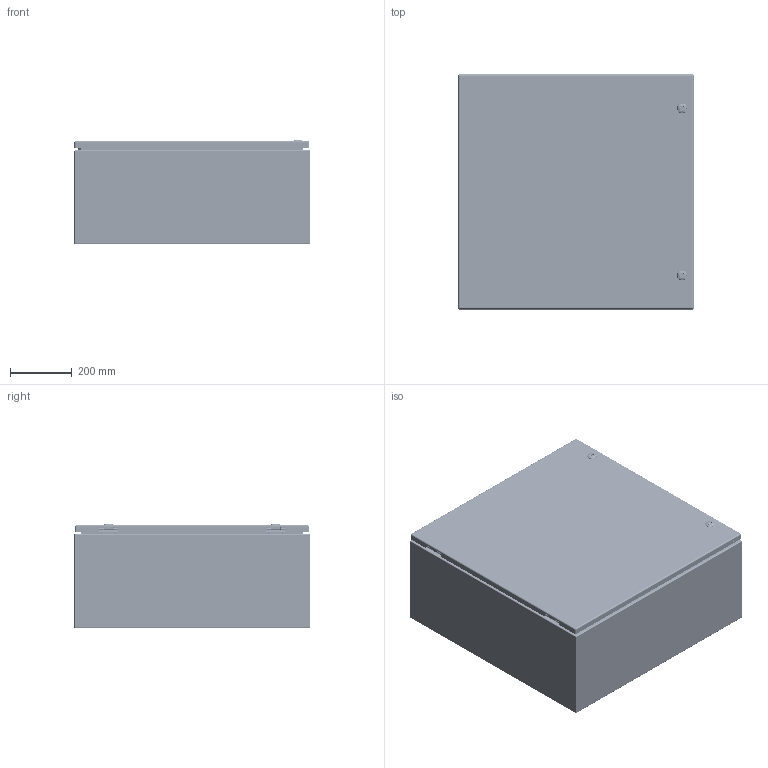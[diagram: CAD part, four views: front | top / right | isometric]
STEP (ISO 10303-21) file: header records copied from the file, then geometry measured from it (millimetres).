
FILE_DESCRIPTION(/* description */ ('5412ES 30" x 30" x 12" Assembly'),/* implementation_level */ '2;1');
FILE_NAME(/* name */ '5412ES303012.stp',/* time_stamp */ '2024-09-13T09:28:59-04:00',/* author */ ('BoxCad'),/* organization */ (''),/* preprocessor_version */ 'ST-DEVELOPER v20',/* originating_system */ 'Autodesk Inventor 2024',/* authorisation */ '');
FILE_SCHEMA (('AUTOMOTIVE_DESIGN { 1 0 10303 214 3 1 1 }'));
Products named in the file (44): 5412ES303012; 5412ES303012B; 5412ES303012B-P; STK-Q-16005; STUD_M6 x 16mm; 5412ES303012C; 5412ES303012C-P; 5412ES303012G; STK-K-09800-1; STK-K-09800-2; STK-Q-33014; STK-Q-90398; STK-Q-40095; STK-Q-63410; STK-Q-16055; STK-Q-46020-30; STK-Q-07220-1; STK-Q-07220-2; STK-Q-07220-3; STK-Q-07220-4; STK-Q-07220-A; STK-Q-07220-B; STK-P-02400S; STK-S-00100; STK-K-12500; STK-Q-78111; STK-Q-78141; STK-Q-78120; STK-Q-78145; STK-Q-03200; STK-Q-78160; STK-Q-90390; STK-Q-78111-R; STK-Q-04050-08-1; STK-Q-04050-08-2; STK-Q-04050-08-P; STK-Q-04051-N; STK-A-01800; 880 PP; 5412ES303012IPK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
Assembly tree (74 placements, depth 4):
  5412ES303012
    5412ES303012B
      5412ES303012B-P
      STK-Q-16005  x4
      STK-P-02400S
      STUD_M6 x 16mm
    5412ES303012C
      5412ES303012C-P
      5412ES303012G
      STK-K-09800-1
        STK-Q-33014
        STK-Q-90398
        STK-Q-40095  x2
        STK-Q-63410  x2
      STK-K-09800-2
        STK-Q-33014
        STK-Q-90398
        STK-Q-40095  x2
        STK-Q-63410  x2
      STK-Q-16055  x4
      STK-Q-46020-30  x2
      STK-Q-07220-1
        STK-Q-07220-A
        STK-Q-07220-B
      STK-Q-07220-2
        STK-Q-07220-A
        STK-Q-07220-B
      STK-Q-07220-3
        STK-Q-07220-A
        STK-Q-07220-B
      STK-Q-07220-4
        STK-Q-07220-A
        STK-Q-07220-B
      STK-P-02400S
      STK-S-00100
      STK-K-12500  x2
        STK-Q-78111
        STK-Q-78141
        STK-Q-78120
        STK-Q-78145
        STK-Q-03200
        STK-Q-78160
        STK-Q-90390
        STK-Q-78111-R
    STK-Q-04050-08-1
      STK-Q-04050-08-P
      STK-Q-04051-N
    STK-Q-04050-08-2
      STK-Q-04050-08-P
      STK-Q-04051-N
    STK-A-01800
    880 PP
    5412ES303012IPK
      STK-Q-07610  x4
      STK-Q-07310  x4
    881SP3030G
      881SP3030G-P
Bounding box: 762.45 x 762 x 337.69 mm (x, y, z)
Volume: 5606582.6 mm3; surface area: 5889597.9 mm2
Topology: 64 solids, 64 shells, 10116 faces, 26607 edges, 16648 vertices
Faces by surface type: bspline 3432, plane 3063, cylinder 2562, torus 703, sphere 220, cone 136
Full cylindrical faces by diameter (mm): 0 x1, 0.75 x9, 0.762 x9, 1 x8, 1.1 x8, 3.2 x4, 4.191 x52, 4.5 x4, 4.521 x8, 4.558 x2, 4.85 x16, 4.95 x4, 5 x4, 5.1 x30, 5.156 x2, 5.6 x2, 5.9 x25, 6.015 x52, 6.65 x4, 6.8 x4, 6.85 x16, 7.3 x2, 7.366 x4, 7.9 x8, 8 x12, 8.382 x2, 9.5 x4, 9.6 x2, 9.906 x4, 10 x2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
Entity records: 157114 total; most frequent: CARTESIAN_POINT 62344, ORIENTED_EDGE 21322, DIRECTION 16064, EDGE_CURVE 10661, VERTEX_POINT 6662, AXIS2_PLACEMENT_3D 5967, EDGE_LOOP 4437, FACE_OUTER_BOUND 4177
